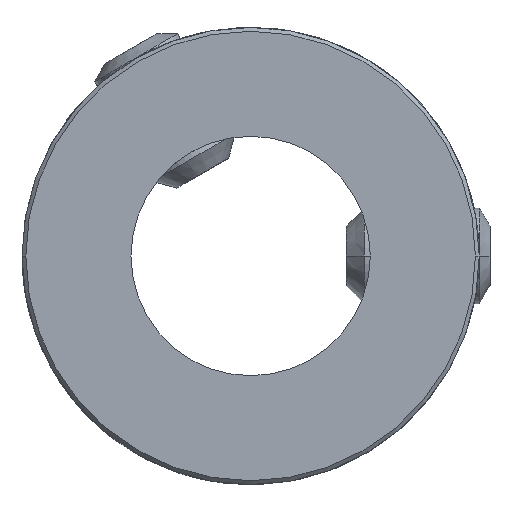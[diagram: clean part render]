
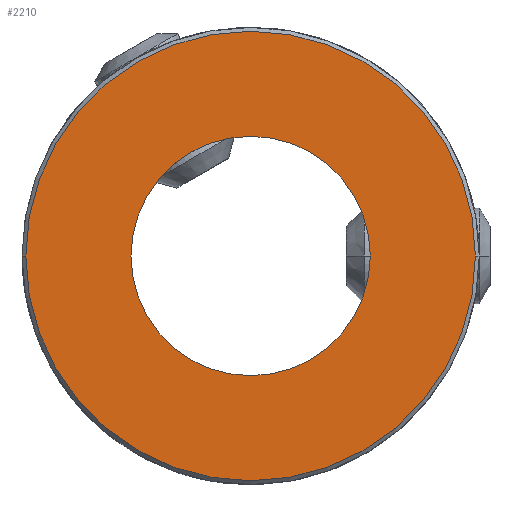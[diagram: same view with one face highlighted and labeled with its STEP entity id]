
A CAD part, front view. The second image highlights one B-rep face of the part: STEP entity #2210.
In plain terms, the highlighted planar face has unit normal (0, -1, 0).
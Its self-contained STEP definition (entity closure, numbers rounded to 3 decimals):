
#1=CARTESIAN_POINT('',(0.,-14.,
0.));
#2=DIRECTION('',(0.,-1.,0.));
#3=DIRECTION('',(-1.,0.,0.));
#4=AXIS2_PLACEMENT_3D('',#1,#2,#3);
#6=CARTESIAN_POINT('',(0.,-14.,
0.));
#7=DIRECTION('',(0.,-1.,0.));
#8=DIRECTION('',(1.,0.,0.));
#9=AXIS2_PLACEMENT_3D('',#6,#7,#8);
#11=CARTESIAN_POINT('',(0.,-14.,0.));
#12=DIRECTION('',(0.,1.,0.));
#13=DIRECTION('',(1.,0.,0.));
#14=AXIS2_PLACEMENT_3D('',#11,#12,#13);
#16=CARTESIAN_POINT('',(0.,-14.,0.));
#17=DIRECTION('',(0.,1.,0.));
#18=DIRECTION('',(-1.,0.,0.));
#19=AXIS2_PLACEMENT_3D('',#16,#17,#18);
#1995=CARTESIAN_POINT('',(5.,-14.,0.));
#1996=CARTESIAN_POINT('',(-5.,-14.,0.));
#1997=VERTEX_POINT('',#1995);
#1998=VERTEX_POINT('',#1996);
#2023=CARTESIAN_POINT('',(-9.39,-14.,0.));
#2024=CARTESIAN_POINT('',(9.39,-14.,0.));
#2025=VERTEX_POINT('',#2023);
#2026=VERTEX_POINT('',#2024);
#2193=CARTESIAN_POINT('',(0.,-14.,0.));
#2194=DIRECTION('',(0.,1.,0.));
#2195=DIRECTION('',(1.,0.,0.));
#2196=AXIS2_PLACEMENT_3D('',#2193,#2194,#2195);
#2197=PLANE('',#2196);
#2199=ORIENTED_EDGE('',*,*,#2198,.F.);
#2201=ORIENTED_EDGE('',*,*,#2200,.F.);
#2202=EDGE_LOOP('',(#2199,#2201));
#2203=FACE_OUTER_BOUND('',#2202,.F.);
#2205=ORIENTED_EDGE('',*,*,#2204,.F.);
#2207=ORIENTED_EDGE('',*,*,#2206,.F.);
#2208=EDGE_LOOP('',(#2205,#2207));
#2209=FACE_BOUND('',#2208,.F.);
#2210=ADVANCED_FACE('',(#2203,#2209),#2197,.F.);
#5=CIRCLE('',#4,9.39);
#10=CIRCLE('',#9,9.39);
#15=CIRCLE('',#14,5.);
#20=CIRCLE('',#19,5.);
#2198=EDGE_CURVE('',#2025,#2026,#5,.T.);
#2200=EDGE_CURVE('',#2026,#2025,#10,.T.);
#2204=EDGE_CURVE('',#1997,#1998,#15,.T.);
#2206=EDGE_CURVE('',#1998,#1997,#20,.T.);
